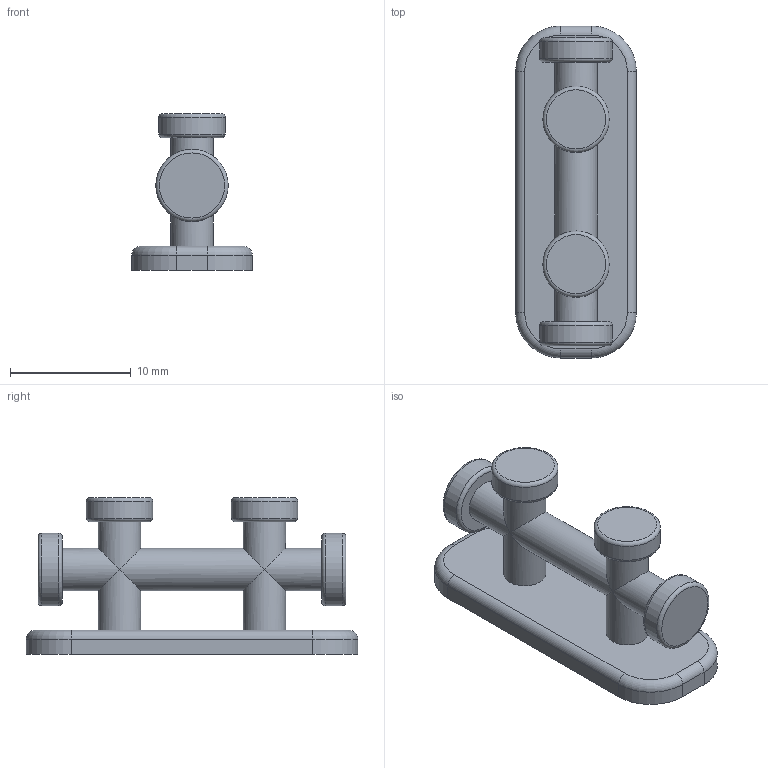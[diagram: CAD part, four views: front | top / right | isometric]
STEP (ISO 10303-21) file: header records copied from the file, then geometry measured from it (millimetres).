
FILE_DESCRIPTION(/* description */ ('','CAx-IF Rec.Pracs.---Representation and Presentation of Product Manufacturing Information (PMI)---4.0---2014-10-13'),/* implementation_level */ '2;1');
FILE_NAME(/* name */ '20sbootbollard.step',/* time_stamp */ '2025-03-08T13:44:15+11:00',/* author */ (''),/* organization */ (''),/* preprocessor_version */ 'ST-DEVELOPER v20',/* originating_system */ 'Autodesk Translation Framework v13.20.0.188',/* authorisation */ '');
FILE_SCHEMA (('AP242_MANAGED_MODEL_BASED_3D_ENGINEERING_MIM_LF { 1 0 10303 442 1 1 4 }'));
Length unit declared in the file: millimetre
Products named in the file (1): SBootdeckbits
Bounding box: 10 x 27.5 x 13 mm (x, y, z)
Volume: 1046 mm3; surface area: 1253 mm2
Topology: 1 solids, 1 shells, 45 faces, 95 edges, 56 vertices
Faces by surface type: cylinder 19, plane 14, torus 12
Full cylindrical faces by diameter (mm): 3.5 x7, 5.5 x2, 6 x2
Entity records: 1254 total; most frequent: DIRECTION 251, CARTESIAN_POINT 197, ORIENTED_EDGE 190, AXIS2_PLACEMENT_3D 110, EDGE_CURVE 95, CIRCLE 56, VERTEX_POINT 56, EDGE_LOOP 51
